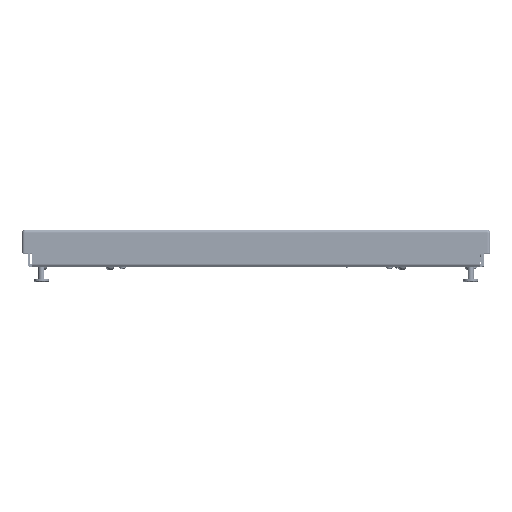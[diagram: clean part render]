
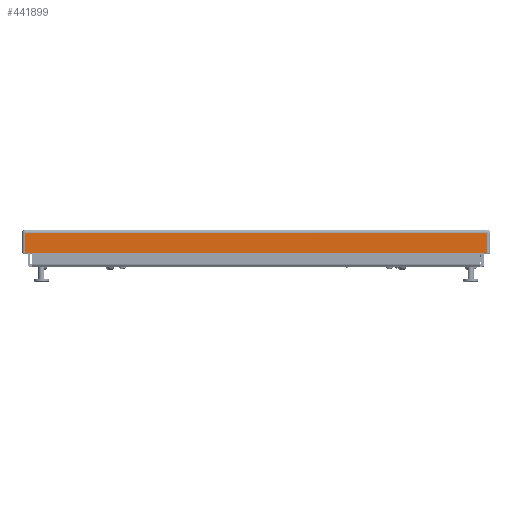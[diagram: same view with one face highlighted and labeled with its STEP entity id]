
A CAD part, top view. The second image highlights one B-rep face of the part: STEP entity #441899.
In plain terms, the highlighted planar face has unit normal (0, 0, 1) as drawn and (0, 0, -1) by its records, which use the part's own axes.
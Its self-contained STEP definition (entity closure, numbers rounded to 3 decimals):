
#5391 = DIRECTION ( 'NONE',  ( 0., 1., 0. ) ) ;
#13548 = CARTESIAN_POINT ( 'NONE',  ( 296.27, 0.813, -300. ) ) ;
#18019 = DIRECTION ( 'NONE',  ( 0., -1., 0. ) ) ;
#66362 = VERTEX_POINT ( 'NONE', #13548 ) ;
#95095 = FACE_OUTER_BOUND ( 'NONE', #653202, .T. ) ;
#103765 = VECTOR ( 'NONE', #328446, 1000. ) ;
#135861 = ORIENTED_EDGE ( 'NONE', *, *, #293061, .T. ) ;
#146015 = CARTESIAN_POINT ( 'NONE',  ( 0., 26.437, -300. ) ) ;
#181334 = CARTESIAN_POINT ( 'NONE',  ( 300., 0.813, -300. ) ) ;
#183766 = LINE ( 'NONE', #181334, #103765 ) ;
#191996 = ORIENTED_EDGE ( 'NONE', *, *, #640243, .F. ) ;
#205733 = EDGE_CURVE ( 'NONE', #238271, #557139, #410858, .T. ) ;
#207001 = LINE ( 'NONE', #146015, #214609 ) ;
#214609 = VECTOR ( 'NONE', #502576, 1000. ) ;
#218889 = CARTESIAN_POINT ( 'NONE',  ( 0., 0., -300. ) ) ;
#238271 = VERTEX_POINT ( 'NONE', #625335 ) ;
#248193 = VECTOR ( 'NONE', #258639, 1000. ) ;
#258639 = DIRECTION ( 'NONE',  ( 0., 1., 0. ) ) ;
#262021 = CARTESIAN_POINT ( 'NONE',  ( -296.27, 0., -300. ) ) ;
#293061 = EDGE_CURVE ( 'NONE', #557139, #373669, #207001, .T. ) ;
#321517 = ORIENTED_EDGE ( 'NONE', *, *, #205733, .T. ) ;
#328446 = DIRECTION ( 'NONE',  ( 1., 0., 0. ) ) ;
#373669 = VERTEX_POINT ( 'NONE', #419183 ) ;
#383779 = LINE ( 'NONE', #519173, #248193 ) ;
#393014 = ORIENTED_EDGE ( 'NONE', *, *, #600387, .F. ) ;
#410858 = LINE ( 'NONE', #262021, #530202 ) ;
#419183 = CARTESIAN_POINT ( 'NONE',  ( 296.27, 26.437, -300. ) ) ;
#441899 = ADVANCED_FACE ( 'NONE', ( #95095 ), #626560, .F. ) ;
#502576 = DIRECTION ( 'NONE',  ( 1., 0., 0. ) ) ;
#508980 = AXIS2_PLACEMENT_3D ( 'NONE', #218889, #628760, #18019 ) ;
#519173 = CARTESIAN_POINT ( 'NONE',  ( 296.27, 0., -300. ) ) ;
#530202 = VECTOR ( 'NONE', #5391, 1000. ) ;
#557139 = VERTEX_POINT ( 'NONE', #565884 ) ;
#565884 = CARTESIAN_POINT ( 'NONE',  ( -296.27, 26.437, -300. ) ) ;
#600387 = EDGE_CURVE ( 'NONE', #238271, #66362, #183766, .T. ) ;
#625335 = CARTESIAN_POINT ( 'NONE',  ( -296.27, 0.813, -300. ) ) ;
#626560 = PLANE ( 'NONE',  #508980 ) ;
#628760 = DIRECTION ( 'NONE',  ( 0., 0., 1. ) ) ;
#640243 = EDGE_CURVE ( 'NONE', #66362, #373669, #383779, .T. ) ;
#653202 = EDGE_LOOP ( 'NONE', ( #393014, #321517, #135861, #191996 ) ) ;
